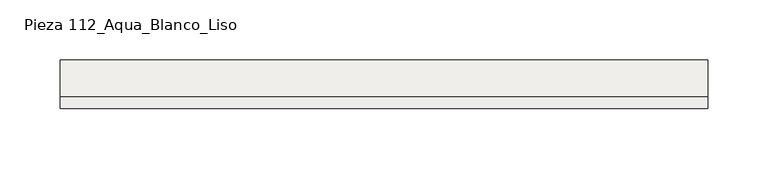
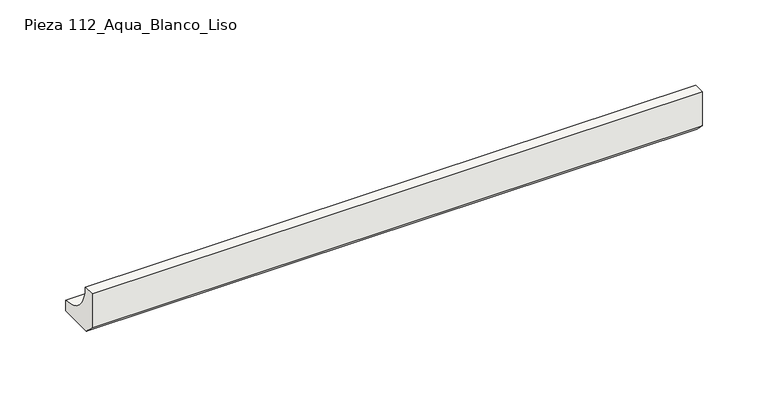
"""IFC4 building model written with IfcOpenShell, lengths in millimetres: slab geometry, ROSA GRES_112 : Pieza 112_Aqua_Blanco_Liso."""

from ifc_helpers import new_model, si_unit, point, frame, frame_2d, origin, place, context, project, spatial, polyline, circle_curve, trimmed, segment, composite_curve, outline, extrude, source, transform, mapped, element, save


def pieza_112_aqua_blanco_liso_45da04d9(model_context):
    return source(origin(), model_context, "Body", "SweptSolid", [
        extrude(outline(composite_curve([segment(polyline([(-9.9734114, 8.7114978), (-9.9734114, 40.0), (0.0, 40.0)]), True, "CONTINUOUS"), segment(trimmed(circle_curve(frame_2d((30.0221432, 39.9955547)), 30.0221435), [point((0.0, 40.0))], [point((30.0265886, 9.9734114))], True, "CARTESIAN"), True, "CONTINUOUS"), segment(polyline([(30.0265886, 9.9734114), (30.0265886, 0.0), (-1.2619137, 0.0), (-9.9734114, 8.7114978)]), True, "CONTINUOUS")], self_intersect=False)), frame((0.0, 0.0, 0.0), z_axis=(1.0, 0.0, 0.0), x_axis=(0.0, 1.0, 0.0)), (0.0, 0.0, 1.0), 535.8122319),
    ])


if __name__ == "__main__":
    model = new_model("IFC4")
    model_context = context("Model", 3, world=origin())
    ifc_project = project(units=[si_unit("LENGTHUNIT", "METRE", prefix="MILLI")], contexts=[model_context])
    site = spatial("IfcSite", under=ifc_project)
    building = spatial("IfcBuilding", under=site)
    placement = place(None, origin())
    pieza_112_aqua_blanco_liso_shape = pieza_112_aqua_blanco_liso_45da04d9(model_context)
    element("IfcSlab", 1, ObjectType="ROSA GRES_112 : Pieza 112_Aqua_Blanco_Liso", at=placement, inside=building, context=model_context, shape_type="MappedRepresentation", body=[
        mapped(pieza_112_aqua_blanco_liso_shape, transform((0.0, 0.0, 0.0), x_axis=(1.0, 0.0, 0.0), y_axis=(0.0, 1.0, 0.0), z_axis=(0.0, 0.0, 1.0))),
    ])
    save(model, "model.ifc")
